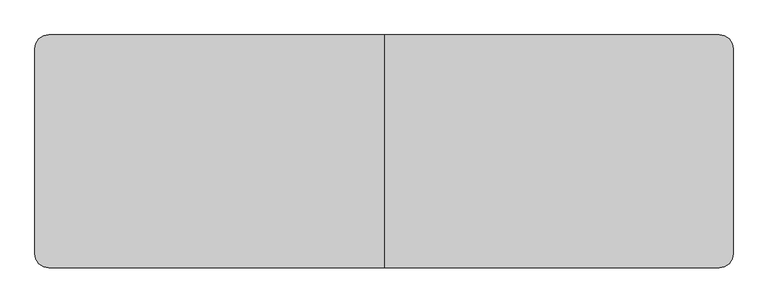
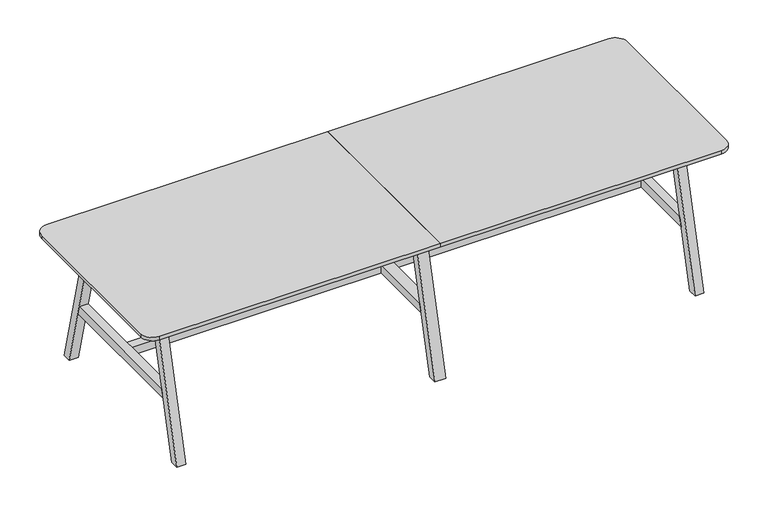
"""IFC4 building model written with IfcOpenShell, lengths in millimetres: furniture geometry, BDG_BossDesign_Tbls_AgentTables6Legs : AGE-DT-6L-3000-1000-3D."""

from ifc_helpers import new_model, si_unit, point, frame, frame_2d, origin, place, context, project, spatial, polyline, circle_curve, trimmed, segment, composite_curve, outline, extrude, source, transform, mapped, element, save


def furniture_a930f645(model_context):
    return source(origin(), model_context, "Body", "SweptSolid", [
        extrude(outline(polyline([(500.0, 0.0), (454.9999949, 0.0), (285.5, 660.0), (330.5000051, 660.0), (500.0, 0.0)])), frame((-27.5, 0.0, 0.0), z_axis=(1.0, 0.0, 0.0), x_axis=(0.0, 1.0, 0.0)), (0.0, 0.0, 1.0), 55.0),
        extrude(outline(polyline([(-500.0, 0.0), (-330.5000051, 660.0), (-285.5, 660.0), (-454.9999949, 0.0), (-500.0, 0.0)])), frame((-27.5, 0.0, 0.0), z_axis=(1.0, 0.0, 0.0), x_axis=(0.0, 1.0, 0.0)), (0.0, 0.0, 1.0), 55.0),
        extrude(outline(polyline([(377.9545427, 300.0), (-377.9545427, 300.0), (-366.3977249, 345.0), (366.3977249, 345.0), (377.9545427, 300.0)])), frame((-27.5, 0.0, 0.0), z_axis=(1.0, 0.0, 0.0), x_axis=(0.0, 1.0, 0.0)), (0.0, 0.0, 1.0), 55.0),
        extrude(outline(composite_curve([segment(polyline([(0.0, 500.0), (0.0, -500.0), (-1440.0, -500.0)]), True, "CONTINUOUS"), segment(trimmed(circle_curve(frame_2d((-1440.0, -440.0)), 60.0), [point((-1440.0, -500.0))], [point((-1500.0, -440.0))], False, "CARTESIAN"), True, "CONTINUOUS"), segment(polyline([(-1500.0, -440.0), (-1500.0, 440.0)]), True, "CONTINUOUS"), segment(trimmed(circle_curve(frame_2d((-1440.0, 440.0)), 60.0), [point((-1500.0, 440.0))], [point((-1440.0, 500.0))], False, "CARTESIAN"), True, "CONTINUOUS"), segment(polyline([(-1440.0, 500.0), (0.0, 500.0)]), True, "CONTINUOUS")], self_intersect=False)), frame((0.0, 0.0, 722.0), z_axis=(0.0, 0.0, 1.0), x_axis=(1.0, 0.0, 0.0)), (0.0, 0.0, 1.0), 18.0),
        extrude(outline(polyline([(-366.3977249, 345.0), (366.3977249, 345.0), (377.9545427, 300.0), (-377.9545427, 300.0), (-366.3977249, 345.0)])), frame((1305.0, 0.0, 0.0), z_axis=(1.0, 0.0, 0.0), x_axis=(0.0, 1.0, 0.0)), (0.0, 0.0, 1.0), 45.0),
        extrude(outline(polyline([(500.0, 0.0), (454.9999949, 0.0), (285.5, 660.0), (330.5000051, 660.0), (500.0, 0.0)])), frame((-1350.0, 0.0, 0.0), z_axis=(1.0, 0.0, 0.0), x_axis=(0.0, 1.0, 0.0)), (0.0, 0.0, 1.0), 45.0),
        extrude(outline(polyline([(-500.0, 0.0), (-330.5000051, 660.0), (-285.5, 660.0), (-454.9999949, 0.0), (-500.0, 0.0)])), frame((-1350.0, 0.0, 0.0), z_axis=(1.0, 0.0, 0.0), x_axis=(0.0, 1.0, 0.0)), (0.0, 0.0, 1.0), 45.0),
        extrude(outline(polyline([(-366.3977249, 345.0), (366.3977249, 345.0), (377.9545427, 300.0), (-377.9545427, 300.0), (-366.3977249, 345.0)])), frame((-1350.0, 0.0, 0.0), z_axis=(1.0, 0.0, 0.0), x_axis=(0.0, 1.0, 0.0)), (0.0, 0.0, 1.0), 45.0),
        extrude(outline(polyline([(-326.6006165, 634.973938), (-304.2770691, 722.0), (-279.5, 722.0), (-301.8235474, 634.973938), (-326.6006165, 634.973938)])), frame((-1305.0, 0.0, 0.0), z_axis=(1.0, 0.0, 0.0), x_axis=(0.0, 1.0, 0.0)), (0.0, 0.0, 1.0), 2610.0),
        extrude(outline(polyline([(326.6006165, 634.973938), (301.8235474, 634.973938), (279.5, 722.0), (304.2770691, 722.0), (326.6006165, 634.973938)])), frame((-1305.0, 0.0, 0.0), z_axis=(1.0, 0.0, 0.0), x_axis=(0.0, 1.0, 0.0)), (0.0, 0.0, 1.0), 2610.0),
        extrude(outline(polyline([(499.7999878, 0.0), (454.7999827, 0.0), (285.5, 660.0), (330.5000051, 660.0), (499.7999878, 0.0)])), frame((1305.0, 0.0, 0.0), z_axis=(1.0, 0.0, 0.0), x_axis=(0.0, 1.0, 0.0)), (0.0, 0.0, 1.0), 45.0),
        extrude(outline(polyline([(-499.7999878, 0.0), (-330.5000051, 660.0), (-285.5, 660.0), (-454.7999827, 0.0), (-499.7999878, 0.0)])), frame((1305.0, 0.0, 0.0), z_axis=(1.0, 0.0, 0.0), x_axis=(0.0, 1.0, 0.0)), (0.0, 0.0, 1.0), 45.0),
        extrude(outline(polyline([(-27.5, 22.5000305), (-27.5, -22.5000305), (-1305.0, -22.5000305), (-1305.0, 22.5000305), (-27.5, 22.5000305)])), frame((0.0, 0.0, 300.0), z_axis=(0.0, 0.0, 1.0), x_axis=(1.0, 0.0, 0.0)), (0.0, 0.0, 1.0), 45.0),
        extrude(outline(polyline([(27.5, -22.5000305), (27.5, 22.5000305), (1305.0, 22.5000305), (1305.0, -22.5000305), (27.5, -22.5000305)])), frame((0.0, 0.0, 300.0), z_axis=(0.0, 0.0, 1.0), x_axis=(1.0, 0.0, 0.0)), (0.0, 0.0, 1.0), 45.0),
        extrude(outline(composite_curve([segment(trimmed(circle_curve(frame_2d((1440.0, 440.0)), 60.0), [point((1440.0, 500.0))], [point((1500.0, 440.0))], False, "CARTESIAN"), True, "CONTINUOUS"), segment(polyline([(1500.0, 440.0), (1500.0, -440.0)]), True, "CONTINUOUS"), segment(trimmed(circle_curve(frame_2d((1440.0, -440.0)), 60.0), [point((1500.0, -440.0))], [point((1440.0, -500.0))], False, "CARTESIAN"), True, "CONTINUOUS"), segment(polyline([(1440.0, -500.0), (0.0, -500.0), (0.0, 500.0), (1440.0, 500.0)]), True, "CONTINUOUS")], self_intersect=False)), frame((0.0, 0.0, 722.0), z_axis=(0.0, 0.0, 1.0), x_axis=(1.0, 0.0, 0.0)), (0.0, 0.0, 1.0), 18.0),
    ])


if __name__ == "__main__":
    model = new_model("IFC4")
    model_context = context("Model", 3, world=origin())
    ifc_project = project(units=[si_unit("LENGTHUNIT", "METRE", prefix="MILLI")], contexts=[model_context])
    site = spatial("IfcSite", under=ifc_project)
    building = spatial("IfcBuilding", under=site)
    placement = place(None, origin())
    furniture_shape = furniture_a930f645(model_context)
    element("IfcFurniture", 1, ObjectType="BDG_BossDesign_Tbls_AgentTables6Legs : AGE-DT-6L-3000-1000-3D", at=placement, inside=building, context=model_context, shape_type="MappedRepresentation", body=[
        mapped(furniture_shape, transform((0.0, 0.0, 0.0), x_axis=(1.0, 0.0, 0.0), y_axis=(0.0, 1.0, 0.0), z_axis=(0.0, 0.0, 1.0))),
    ])
    save(model, "model.ifc")
